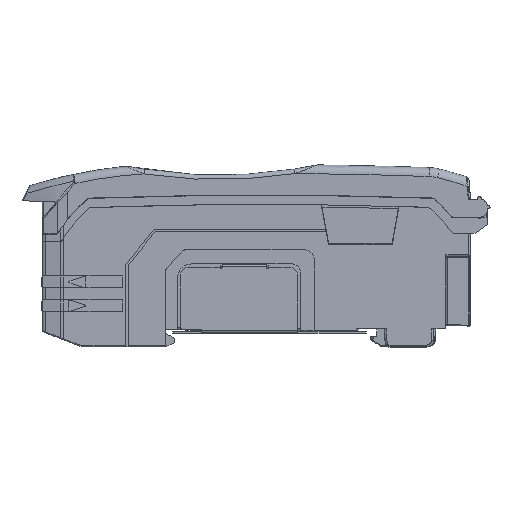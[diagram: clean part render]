
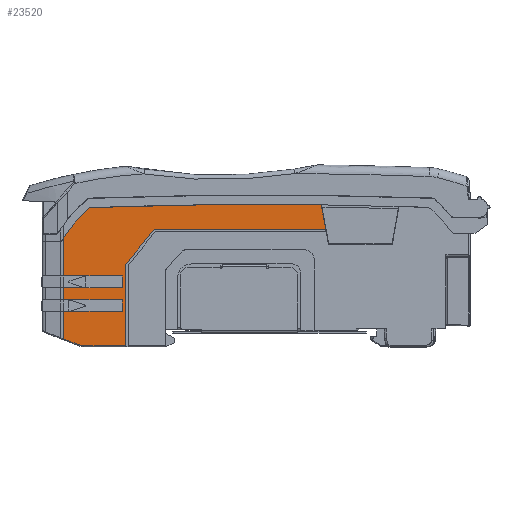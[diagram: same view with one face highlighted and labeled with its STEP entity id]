
A CAD part, front view. The second image highlights one B-rep face of the part: STEP entity #23520.
In plain terms, the highlighted planar face has unit normal (0, -1, 0).
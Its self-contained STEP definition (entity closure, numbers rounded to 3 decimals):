
#8233=DIRECTION('',(1.,0.,0.));
#8234=VECTOR('',#8233,7.066);
#8235=CARTESIAN_POINT('',(-28.989,-4.95,
-30.463));
#8236=LINE('',#8235,#8234);
#10049=CARTESIAN_POINT('',(-28.989,-4.95,
-28.813));
#10050=DIRECTION('',(0.,1.,0.));
#10051=DIRECTION('',(0.,0.,-1.));
#10052=AXIS2_PLACEMENT_3D('',#10049,#10050,#10051);
#10057=DIRECTION('',(-0.934,0.,0.358));
#10058=VECTOR('',#10057,3.);
#10059=CARTESIAN_POINT('',(-29.58,-4.95,
-30.353));
#10060=LINE('',#10059,#10058);
#10064=DIRECTION('',(-1.,0.,0.));
#10065=VECTOR('',#10064,9.909);
#10066=CARTESIAN_POINT('',(-22.473,-4.95,
-22.718));
#10067=LINE('',#10066,#10065);
#10071=DIRECTION('',(-1.,0.,0.));
#10072=VECTOR('',#10071,9.909);
#10073=CARTESIAN_POINT('',(-22.473,-4.95,
-18.693));
#10074=LINE('',#10073,#10072);
#10078=CARTESIAN_POINT('',(-8.603,-4.95,
-27.996));
#10079=DIRECTION('',(0.,1.,0.));
#10080=DIRECTION('',(-0.834,0.,0.551));
#10081=AXIS2_PLACEMENT_3D('',#10078,#10079,#10080);
#10086=CARTESIAN_POINT('',(-27.87,-4.95,
-7.679));
#10087=DIRECTION('',(0.,1.,0.));
#10088=DIRECTION('',(-0.688,0.,0.726));
#10089=AXIS2_PLACEMENT_3D('',#10086,#10087,#10088);
#10094=CARTESIAN_POINT('',(1.027,-4.95,
-786.643));
#10095=DIRECTION('',(0.,1.,0.));
#10096=DIRECTION('',(-0.037,0.,0.999));
#10097=AXIS2_PLACEMENT_3D('',#10094,#10095,#10096);
#10102=DIRECTION('',(0.182,0.,-0.983));
#10103=VECTOR('',#10102,4.232);
#10104=CARTESIAN_POINT('',(10.972,-4.95,
-6.706));
#10105=LINE('',#10104,#10103);
#10109=DIRECTION('',(-1.,0.,0.));
#10110=VECTOR('',#10109,28.907);
#10111=CARTESIAN_POINT('',(11.744,-4.95,
-10.868));
#10112=LINE('',#10111,#10110);
#10116=DIRECTION('',(-0.629,0.,-0.777));
#10117=VECTOR('',#10116,7.562);
#10118=CARTESIAN_POINT('',(-17.163,-4.95,
-10.868));
#10119=LINE('',#10118,#10117);
#10123=DIRECTION('',(0.,0.,-1.));
#10124=VECTOR('',#10123,13.718);
#10125=CARTESIAN_POINT('',(-21.923,-4.95,
-16.745));
#10126=LINE('',#10125,#10124);
#10130=DIRECTION('',(0.,0.,-1.));
#10131=VECTOR('',#10130,4.61);
#10132=CARTESIAN_POINT('',(-32.381,-4.95,
-24.668));
#10133=LINE('',#10132,#10131);
#10224=DIRECTION('',(-1.,0.,0.));
#10225=VECTOR('',#10224,9.909);
#10226=CARTESIAN_POINT('',(-22.473,-4.95,
-24.668));
#10227=LINE('',#10226,#10225);
#10328=DIRECTION('',(-1.,0.,0.));
#10329=VECTOR('',#10328,9.909);
#10330=CARTESIAN_POINT('',(-22.473,-4.95,
-20.693));
#10331=LINE('',#10330,#10329);
#18046=DIRECTION('',(0.,0.,-1.));
#18047=VECTOR('',#18046,6.409);
#18048=CARTESIAN_POINT('',(-32.381,-4.95,
-12.284));
#18049=LINE('',#18048,#18047);
#18080=DIRECTION('',(0.,0.,-1.));
#18081=VECTOR('',#18080,2.);
#18082=CARTESIAN_POINT('',(-22.473,-4.95,
-18.693));
#18083=LINE('',#18082,#18081);
#18270=DIRECTION('',(0.,0.,-1.));
#18271=VECTOR('',#18270,2.025);
#18272=CARTESIAN_POINT('',(-32.381,-4.95,
-20.693));
#18273=LINE('',#18272,#18271);
#18277=DIRECTION('',(0.,0.,-1.));
#18278=VECTOR('',#18277,1.95);
#18279=CARTESIAN_POINT('',(-22.473,-4.95,
-22.718));
#18280=LINE('',#18279,#18278);
#19473=CARTESIAN_POINT('',(-32.381,-4.95,
-29.278));
#19475=VERTEX_POINT('',#19473);
#19480=CARTESIAN_POINT('',(-29.58,-4.95,
-30.353));
#19482=VERTEX_POINT('',#19480);
#19483=CARTESIAN_POINT('',(-28.989,-4.95,
-30.463));
#19485=VERTEX_POINT('',#19483);
#19488=CARTESIAN_POINT('',(-21.923,-4.95,
-30.463));
#19490=VERTEX_POINT('',#19488);
#19493=CARTESIAN_POINT('',(-21.923,-4.95,
-16.745));
#19494=VERTEX_POINT('',#19493);
#19910=CARTESIAN_POINT('',(10.972,-4.95,
-6.706));
#19911=CARTESIAN_POINT('',(11.744,-4.95,
-10.868));
#19912=VERTEX_POINT('',#19910);
#19913=VERTEX_POINT('',#19911);
#19924=CARTESIAN_POINT('',(-32.381,-4.95,
-24.668));
#19925=VERTEX_POINT('',#19924);
#19926=CARTESIAN_POINT('',(-22.473,-4.95,
-24.668));
#19927=VERTEX_POINT('',#19926);
#19928=CARTESIAN_POINT('',(-22.473,-4.95,
-22.718));
#19929=VERTEX_POINT('',#19928);
#19930=CARTESIAN_POINT('',(-32.381,-4.95,
-22.718));
#19931=VERTEX_POINT('',#19930);
#19932=CARTESIAN_POINT('',(-32.381,-4.95,
-20.693));
#19933=VERTEX_POINT('',#19932);
#19934=CARTESIAN_POINT('',(-22.473,-4.95,
-20.693));
#19935=VERTEX_POINT('',#19934);
#19936=CARTESIAN_POINT('',(-22.473,-4.95,
-18.693));
#19937=VERTEX_POINT('',#19936);
#19938=CARTESIAN_POINT('',(-32.381,-4.95,
-18.693));
#19939=VERTEX_POINT('',#19938);
#19940=CARTESIAN_POINT('',(-32.381,-4.95,
-12.284));
#19941=VERTEX_POINT('',#19940);
#19942=CARTESIAN_POINT('',(-28.214,-4.95,
-7.316));
#19943=VERTEX_POINT('',#19942);
#19944=CARTESIAN_POINT('',(-27.889,-4.95,
-7.179));
#19945=VERTEX_POINT('',#19944);
#19946=CARTESIAN_POINT('',(-17.163,-4.95,
-10.868));
#19947=VERTEX_POINT('',#19946);
#23480=CARTESIAN_POINT('',(0.027,-4.95,
-18.493));
#23481=DIRECTION('',(0.,-1.,0.));
#23482=DIRECTION('',(1.,0.,0.));
#23483=AXIS2_PLACEMENT_3D('',#23480,#23481,#23482);
#23484=PLANE('',#23483);
#23485=ORIENTED_EDGE('',*,*,#22091,.T.);
#23486=ORIENTED_EDGE('',*,*,#22076,.T.);
#23488=ORIENTED_EDGE('',*,*,#23487,.F.);
#23490=ORIENTED_EDGE('',*,*,#23489,.F.);
#23492=ORIENTED_EDGE('',*,*,#23491,.F.);
#23494=ORIENTED_EDGE('',*,*,#23493,.T.);
#23496=ORIENTED_EDGE('',*,*,#23495,.F.);
#23498=ORIENTED_EDGE('',*,*,#23497,.F.);
#23500=ORIENTED_EDGE('',*,*,#23499,.F.);
#23502=ORIENTED_EDGE('',*,*,#23501,.T.);
#23504=ORIENTED_EDGE('',*,*,#23503,.F.);
#23506=ORIENTED_EDGE('',*,*,#23505,.T.);
#23508=ORIENTED_EDGE('',*,*,#23507,.T.);
#23510=ORIENTED_EDGE('',*,*,#23509,.T.);
#23511=ORIENTED_EDGE('',*,*,#23459,.T.);
#23513=ORIENTED_EDGE('',*,*,#23512,.T.);
#23515=ORIENTED_EDGE('',*,*,#23514,.T.);
#23516=ORIENTED_EDGE('',*,*,#22119,.T.);
#23517=ORIENTED_EDGE('',*,*,#22106,.F.);
#23518=EDGE_LOOP('',(#23485,#23486,#23488,#23490,#23492,#23494,#23496,#23498,
#23500,#23502,#23504,#23506,#23508,#23510,#23511,#23513,#23515,#23516,#23517));
#23519=FACE_OUTER_BOUND('',#23518,.F.);
#10053=CIRCLE('',#10052,1.65);
#10082=CIRCLE('',#10081,28.5);
#10090=CIRCLE('',#10089,0.5);
#10098=CIRCLE('',#10097,780.);
#22076=EDGE_CURVE('',#19482,#19475,#10060,.T.);
#22091=EDGE_CURVE('',#19485,#19482,#10053,.T.);
#22106=EDGE_CURVE('',#19485,#19490,#8236,.T.);
#22119=EDGE_CURVE('',#19494,#19490,#10126,.T.);
#23459=EDGE_CURVE('',#19912,#19913,#10105,.T.);
#23487=EDGE_CURVE('',#19925,#19475,#10133,.T.);
#23489=EDGE_CURVE('',#19927,#19925,#10227,.T.);
#23491=EDGE_CURVE('',#19929,#19927,#18280,.T.);
#23493=EDGE_CURVE('',#19929,#19931,#10067,.T.);
#23495=EDGE_CURVE('',#19933,#19931,#18273,.T.);
#23497=EDGE_CURVE('',#19935,#19933,#10331,.T.);
#23499=EDGE_CURVE('',#19937,#19935,#18083,.T.);
#23501=EDGE_CURVE('',#19937,#19939,#10074,.T.);
#23503=EDGE_CURVE('',#19941,#19939,#18049,.T.);
#23505=EDGE_CURVE('',#19941,#19943,#10082,.T.);
#23507=EDGE_CURVE('',#19943,#19945,#10090,.T.);
#23509=EDGE_CURVE('',#19945,#19912,#10098,.T.);
#23512=EDGE_CURVE('',#19913,#19947,#10112,.T.);
#23514=EDGE_CURVE('',#19947,#19494,#10119,.T.);
#23520=ADVANCED_FACE('',(#23519),#23484,.T.);
